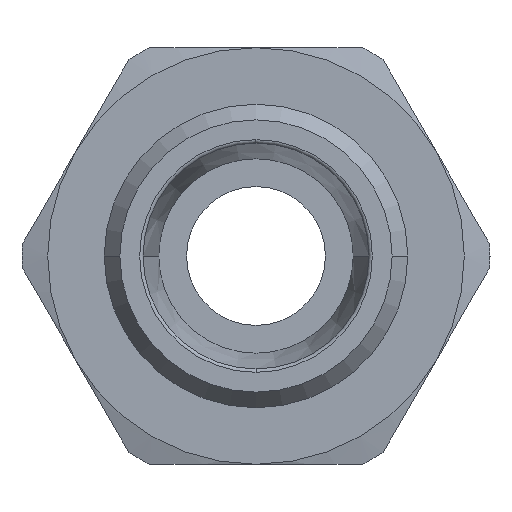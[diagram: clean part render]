
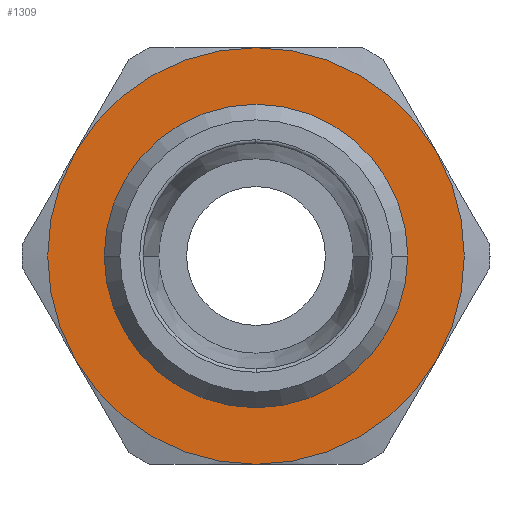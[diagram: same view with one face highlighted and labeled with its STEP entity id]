
A CAD part, left-side view. The second image highlights one B-rep face of the part: STEP entity #1309.
In plain terms, the highlighted planar face has unit normal (-1, 0, 0) as drawn and (0, 0, 1) by its records, which use the part's own axes.
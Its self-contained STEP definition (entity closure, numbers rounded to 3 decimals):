
#317=CARTESIAN_POINT('',(-10.8,0.,13.0));
#318=VERTEX_POINT('',#317);
#344=CARTESIAN_POINT('',(10.8,0.,13.0));
#345=VERTEX_POINT('',#344);
#353=CARTESIAN_POINT('',(0.,0.,13.0));
#354=DIRECTION('',(0.0,0.0,1.0));
#355=DIRECTION('',(-1.0,0.0,0.0));
#356=AXIS2_PLACEMENT_3D('',#353,#354,#355);
#357=CIRCLE('',#356,10.8);
#358=EDGE_CURVE('',#345,#318,#357,.T.);
#1189=CARTESIAN_POINT('',(0.,-10.8,13.));
#1190=VERTEX_POINT('',#1189);
#1191=CARTESIAN_POINT('',(0.,0.,13.0));
#1192=DIRECTION('',(0.0,0.0,1.0));
#1193=DIRECTION('',(-1.0,0.0,0.0));
#1194=AXIS2_PLACEMENT_3D('',#1191,#1192,#1193);
#1195=CIRCLE('',#1194,10.8);
#1196=EDGE_CURVE('',#318,#1190,#1195,.T.);
#1198=CARTESIAN_POINT('',(0.,0.,13.0));
#1199=DIRECTION('',(0.0,0.0,1.0));
#1200=DIRECTION('',(-1.0,0.0,0.0));
#1201=AXIS2_PLACEMENT_3D('',#1198,#1199,#1200);
#1202=CIRCLE('',#1201,10.8);
#1203=EDGE_CURVE('',#1190,#345,#1202,.T.);
#1243=CARTESIAN_POINT('',(0.0,0.,13.0));
#1244=DIRECTION('',(0.0,0.0,1.0));
#1245=DIRECTION('',(1.0,0.0,0.0));
#1246=AXIS2_PLACEMENT_3D('',#1243,#1244,#1245);
#1247=PLANE('',#1246);
#1248=CARTESIAN_POINT('',(7.5,-12.99,13.0));
#1249=VERTEX_POINT('',#1248);
#1250=CARTESIAN_POINT('',(15.0,0.0,13.0));
#1251=VERTEX_POINT('',#1250);
#1252=CARTESIAN_POINT('',(0.,0.0,13.0));
#1253=DIRECTION('',(0.0,0.0,1.0));
#1254=DIRECTION('',(1.0,0.0,0.0));
#1255=AXIS2_PLACEMENT_3D('',#1252,#1253,#1254);
#1256=CIRCLE('',#1255,15.);
#1257=EDGE_CURVE('',#1249,#1251,#1256,.T.);
#1258=ORIENTED_EDGE('',*,*,#1257,.T.);
#1259=CARTESIAN_POINT('',(7.5,12.99,13.0));
#1260=VERTEX_POINT('',#1259);
#1261=CARTESIAN_POINT('',(0.,0.0,13.0));
#1262=DIRECTION('',(0.0,0.0,1.0));
#1263=DIRECTION('',(1.0,0.0,0.0));
#1264=AXIS2_PLACEMENT_3D('',#1261,#1262,#1263);
#1265=CIRCLE('',#1264,15.);
#1266=EDGE_CURVE('',#1251,#1260,#1265,.T.);
#1267=ORIENTED_EDGE('',*,*,#1266,.T.);
#1268=CARTESIAN_POINT('',(-7.5,12.99,13.0));
#1269=VERTEX_POINT('',#1268);
#1270=CARTESIAN_POINT('',(0.,0.0,13.0));
#1271=DIRECTION('',(0.0,0.0,1.0));
#1272=DIRECTION('',(1.0,0.0,0.0));
#1273=AXIS2_PLACEMENT_3D('',#1270,#1271,#1272);
#1274=CIRCLE('',#1273,15.);
#1275=EDGE_CURVE('',#1260,#1269,#1274,.T.);
#1276=ORIENTED_EDGE('',*,*,#1275,.T.);
#1277=CARTESIAN_POINT('',(-15.0,0.,13.0));
#1278=VERTEX_POINT('',#1277);
#1279=CARTESIAN_POINT('',(0.,0.0,13.0));
#1280=DIRECTION('',(0.0,0.0,1.0));
#1281=DIRECTION('',(1.0,0.0,0.0));
#1282=AXIS2_PLACEMENT_3D('',#1279,#1280,#1281);
#1283=CIRCLE('',#1282,15.);
#1284=EDGE_CURVE('',#1269,#1278,#1283,.T.);
#1285=ORIENTED_EDGE('',*,*,#1284,.T.);
#1286=CARTESIAN_POINT('',(-7.5,-12.99,13.0));
#1287=VERTEX_POINT('',#1286);
#1288=CARTESIAN_POINT('',(0.,0.0,13.0));
#1289=DIRECTION('',(0.0,0.0,1.0));
#1290=DIRECTION('',(1.0,0.0,0.0));
#1291=AXIS2_PLACEMENT_3D('',#1288,#1289,#1290);
#1292=CIRCLE('',#1291,15.);
#1293=EDGE_CURVE('',#1278,#1287,#1292,.T.);
#1294=ORIENTED_EDGE('',*,*,#1293,.T.);
#1295=CARTESIAN_POINT('',(0.,0.0,13.0));
#1296=DIRECTION('',(0.0,0.0,1.0));
#1297=DIRECTION('',(1.0,0.0,0.0));
#1298=AXIS2_PLACEMENT_3D('',#1295,#1296,#1297);
#1299=CIRCLE('',#1298,15.);
#1300=EDGE_CURVE('',#1287,#1249,#1299,.T.);
#1301=ORIENTED_EDGE('',*,*,#1300,.T.);
#1302=EDGE_LOOP('',(#1258,#1267,#1276,#1285,#1294,#1301));
#1303=FACE_OUTER_BOUND('',#1302,.T.);
#1304=ORIENTED_EDGE('',*,*,#1203,.F.);
#1305=ORIENTED_EDGE('',*,*,#1196,.F.);
#1306=ORIENTED_EDGE('',*,*,#358,.F.);
#1307=EDGE_LOOP('',(#1304,#1305,#1306));
#1308=FACE_BOUND('',#1307,.T.);
#1309=ADVANCED_FACE('',(#1303,#1308),#1247,.T.);
